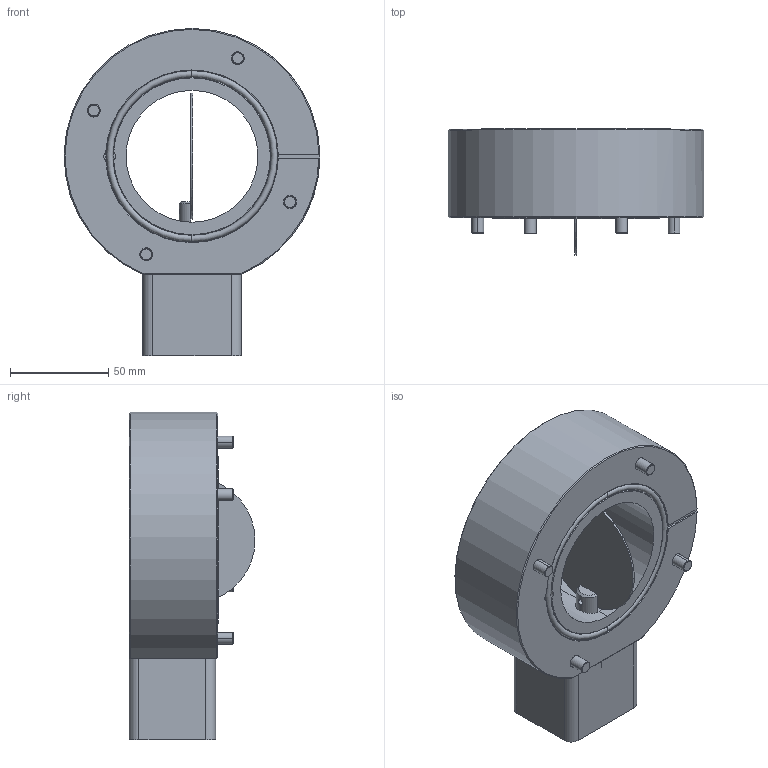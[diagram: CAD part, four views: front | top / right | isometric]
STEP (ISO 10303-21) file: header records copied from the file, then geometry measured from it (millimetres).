
FILE_DESCRIPTION (( 'STEP AP214' ), '1' );
FILE_NAME ('JK063-700A-E.STEP', '2020-08-24T06:08:23', ( '' ), ( '' ), 'SwSTEP 2.0', 'SolidWorks 2018', '' );
FILE_SCHEMA (( 'AUTOMOTIVE_DESIGN' ));
Length unit declared in the file: millimetre
Products named in the file (11): JK063-70B-E; COM-001-M5-15_ル遽; JK063-74B-E; JK063-73B-E; COM-001-M6-35_ル遽; 28BYJ-48-5V; JK063-78A-E; P10-A; JK063-071A; JK063-700A-E; AS568-235
Assembly tree (14 placements, depth 2):
  JK063-700A-E
    JK063-70B-E
    JK063-73B-E
    JK063-071A
    JK063-74B-E
    COM-001-M5-15_ル遽
    AS568-235
    P10-A  x2
    COM-001-M6-35_ル遽  x4
    28BYJ-48-5V
    JK063-78A-E
Bounding box: 129.98 x 64 x 166.3 mm (x, y, z)
Volume: 448492.3 mm3; surface area: 96760.3 mm2
Topology: 14 solids, 14 shells, 367 faces, 875 edges, 554 vertices
Faces by surface type: plane 142, cylinder 141, cone 46, torus 38
Entity records: 10135 total; most frequent: CARTESIAN_POINT 2135, DIRECTION 1692, ORIENTED_EDGE 1482, EDGE_CURVE 741, AXIS2_PLACEMENT_3D 680, VERTEX_POINT 478, EDGE_LOOP 383, CIRCLE 354
